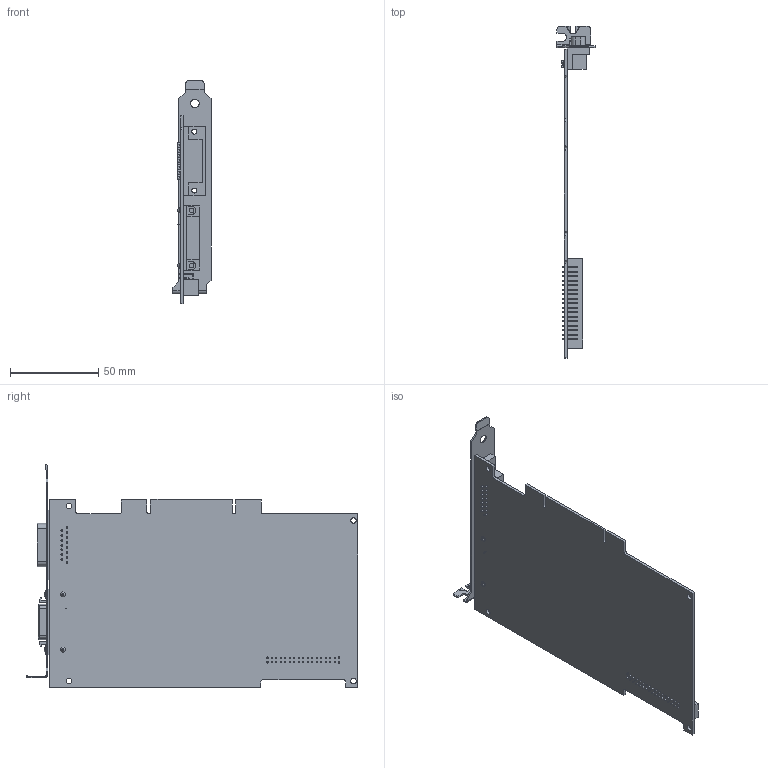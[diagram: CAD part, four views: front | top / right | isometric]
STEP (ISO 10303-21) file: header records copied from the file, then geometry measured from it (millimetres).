
FILE_DESCRIPTION((''),'2;1');
FILE_NAME('CU_PCI-1426','2011-08-16T',('dkendric'),(''),'PRO/ENGINEER BY PARAMETRIC TECHNOLOGY CORPORATION, 2010230','PRO/ENGINEER BY PARAMETRIC TECHNOLOGY CORPORATION, 2010230','');
FILE_SCHEMA(('CONFIG_CONTROL_DESIGN'));
Length unit declared in the file: inch
Products named in the file (1): CU_PCI-1426
Bounding box: 21.59 x 187.77 x 126.21 mm (x, y, z)
Volume: 40637.5 mm3; surface area: 46607.1 mm2
Topology: 1 solids, 1 shells, 992 faces, 2664 edges, 1758 vertices
Faces by surface type: plane 743, cylinder 233, bspline 4, sphere 4, torus 4, cone 4
Entity records: 31229 total; most frequent: CARTESIAN_POINT 5621, ORIENTED_EDGE 5328, DIRECTION 5130, EDGE_CURVE 2664, VECTOR 2150, LINE 2150, VERTEX_POINT 1758, AXIS2_PLACEMENT_3D 1490
